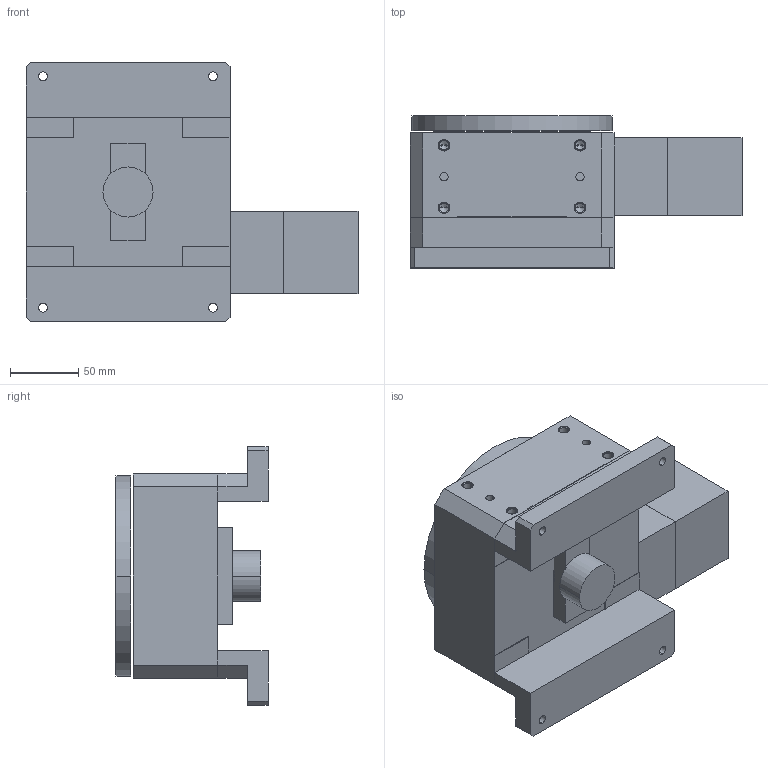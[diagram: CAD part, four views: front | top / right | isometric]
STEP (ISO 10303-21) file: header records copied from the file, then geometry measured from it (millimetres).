
FILE_DESCRIPTION((''),'2;1');
FILE_NAME('R150M7M16E1_ASM','2009-07-02T',('FK20128'),(''),'PRO/ENGINEER BY PARAMETRIC TECHNOLOGY CORPORATION, 2006200','PRO/ENGINEER BY PARAMETRIC TECHNOLOGY CORPORATION, 2006200','');
FILE_SCHEMA(('CONFIG_CONTROL_DESIGN'));
Length unit declared in the file: millimetre
Products named in the file (7): R150M; R150M-M16; R150M-ENCODER-BRKT; R150M-ENCODER-STANDOFF; RXXXM-ENCODER; R150M-E1_ASM; R150M7M16E1_ASM
Assembly tree (7 placements, depth 3):
  R150M7M16E1_ASM
    R150M
    R150M-M16
    R150M-E1_ASM
      R150M-ENCODER-BRKT
      R150M-ENCODER-STANDOFF  x2
      RXXXM-ENCODER
Bounding box: 244.12 x 111.83 x 190 mm (x, y, z)
Volume: 2157632.7 mm3; surface area: 237288.8 mm2
Topology: 7 solids, 31 shells, 306 faces, 749 edges, 492 vertices
Faces by surface type: cylinder 160, plane 112, cone 34
Entity records: 8424 total; most frequent: DIRECTION 1609, CARTESIAN_POINT 1401, ORIENTED_EDGE 1222, EDGE_CURVE 655, AXIS2_PLACEMENT_3D 652, VERTEX_POINT 444, EDGE_LOOP 369, CIRCLE 350
